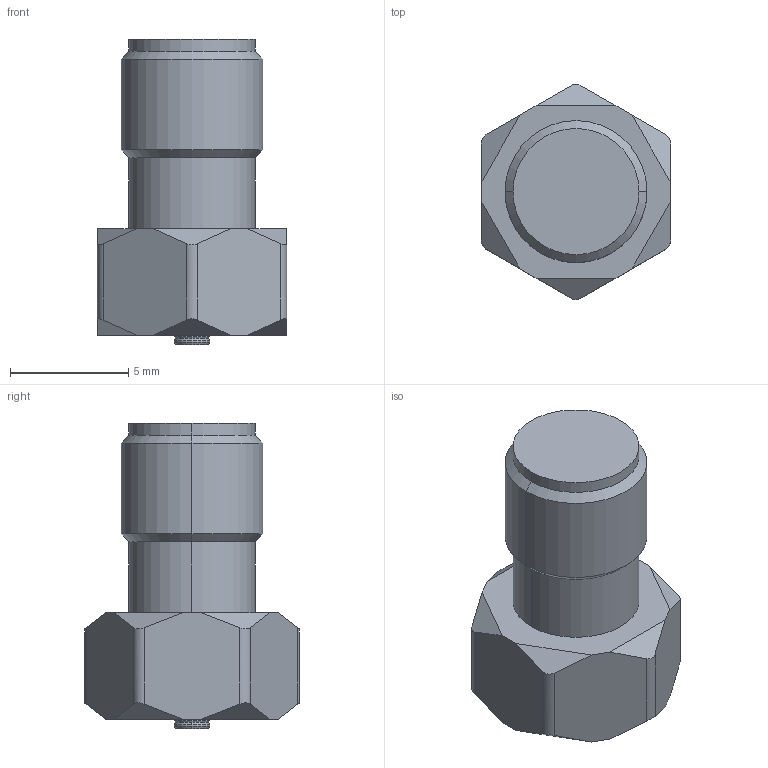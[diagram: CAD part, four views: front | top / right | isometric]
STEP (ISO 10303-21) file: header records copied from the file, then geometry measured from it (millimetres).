
FILE_DESCRIPTION (( 'STEP AP203' ), '1' );
FILE_NAME ('90449-001 MHF 4 ACCESSORIES.STEP', '2020-03-27T10:04:59', ( '' ), ( '' ), 'SwSTEP 2.0', 'SolidWorks 2017', '' );
FILE_SCHEMA (( 'CONFIG_CONTROL_DESIGN' ));
Length unit declared in the file: millimetre
Products named in the file (1): 90449-001 MHF 4 ACCESSORIES
Bounding box: 8 x 9.08 x 12.9 mm (x, y, z)
Volume: 448.2 mm3; surface area: 373 mm2
Topology: 1 solids, 1 shells, 54 faces, 128 edges, 80 vertices
Faces by surface type: plane 24, cylinder 18, cone 12
Entity records: 1613 total; most frequent: CARTESIAN_POINT 299, DIRECTION 258, ORIENTED_EDGE 256, EDGE_CURVE 128, AXIS2_PLACEMENT_3D 87, VECTOR 84, LINE 84, VERTEX_POINT 80
